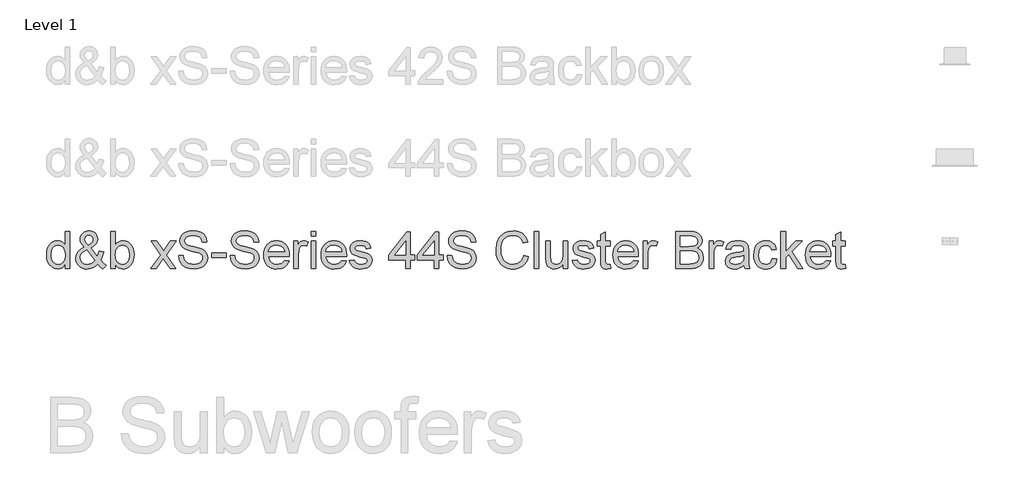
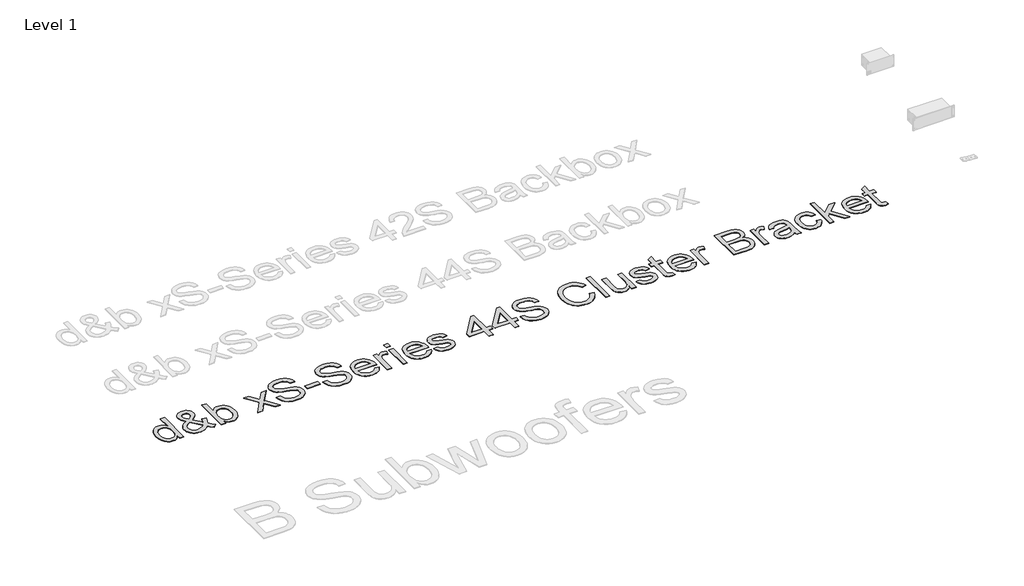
# One storey, part 7 of 55: 1 proxy.
"""IFC4 building model written with IfcOpenShell, lengths in millimetres."""

import ifcopenshell
import ifcopenshell.guid

model = None  # the IFC model being written
_history = None  # IfcOwnerHistory: only IFC2X3 demands one
_inside = {}  # id of a spatial element -> (the spatial element, [elements in it])
_under = {}  # id of a project, library or spatial element -> (it, [spatial elements below it])
_declared = {}  # id of a project -> (the project, [libraries it declares])
_typed = {}  # id of a type object -> (the type object, [elements of that type])
_made_of = {}  # id of a material, layer set ... -> (it, [elements and type objects made of it])


def new_model(schema):
    """Start an empty IFC model of exactly this schema.

    Asked for "IFC4X3", IfcOpenShell would pick the latest addendum, in which some entities
    have other attributes; the version numbers below select the first issue.
    IFC2X3 requires an IfcOwnerHistory on every rooted entity: one is made here for all.
    """
    global model, _history
    if schema == "IFC4X3":
        model = ifcopenshell.file(schema_version=(4, 3, 0, 0))
    else:
        model = ifcopenshell.file(schema=schema)
    _inside.clear()
    _under.clear()
    _declared.clear()
    _typed.clear()
    _made_of.clear()
    _history = None
    if model.schema == "IFC2X3":
        org = make("IfcOrganization", Name="unknown")
        user = make(
            "IfcPersonAndOrganization",
            ThePerson=make("IfcPerson", FamilyName="unknown"),
            TheOrganization=org,
        )
        app = make(
            "IfcApplication",
            ApplicationDeveloper=org,
            Version="unknown",
            ApplicationFullName="unknown",
            ApplicationIdentifier="unknown",
        )
        _history = make(
            "IfcOwnerHistory",
            OwningUser=user,
            OwningApplication=app,
            ChangeAction="ADDED",
            CreationDate=0,
        )
    return model


def make(cls, **values):
    """One entity of the class cls with the attributes given. An attribute that is None is left unset."""
    return model.create_entity(
        cls, **{name: value for name, value in values.items() if value is not None}
    )


def rooted(cls, **values):
    """An entity with a GlobalId (a new one), such as an element, a storey or a relation."""
    return make(cls, GlobalId=ifcopenshell.guid.new(), OwnerHistory=_history, **values)


def si_unit(unit_type, name, prefix=None):
    """IfcSIUnit, for example si_unit("LENGTHUNIT", "METRE", prefix="MILLI")."""
    return make("IfcSIUnit", UnitType=unit_type, Prefix=prefix, Name=name)


def assignment(units):
    """IfcUnitAssignment: the units of a project."""
    return None if units is None else make("IfcUnitAssignment", Units=units)


def point(xyz):
    """IfcCartesianPoint."""
    return None if xyz is None else make("IfcCartesianPoint", Coordinates=xyz)


def direction(xyz):
    """IfcDirection."""
    return None if xyz is None else make("IfcDirection", DirectionRatios=xyz)


def frame(location, z_axis=None, x_axis=None):
    """IfcAxis2Placement3D, a coordinate frame: its origin and axes. An axis left out is left unset."""
    return make(
        "IfcAxis2Placement3D",
        Location=point(location),
        Axis=direction(z_axis),
        RefDirection=direction(x_axis),
    )


def origin():
    """The frame at (0, 0, 0) with its axes left unset."""
    return frame((0.0, 0.0, 0.0))


def origin_with_axes():
    """The frame at (0, 0, 0) with the z axis (0, 0, 1) and the x axis (1, 0, 0) written out."""
    return frame((0.0, 0.0, 0.0), z_axis=(0.0, 0.0, 1.0), x_axis=(1.0, 0.0, 0.0))


def place(relative_to, where):
    """IfcLocalPlacement: puts the frame where relative to a parent placement (None: the world)."""
    return make(
        "IfcLocalPlacement", PlacementRelTo=relative_to, RelativePlacement=where
    )


def context(
    kind, dimensions, precision=None, world=None, true_north=None, identifier=None
):
    """IfcGeometricRepresentationContext, for example the 3D "Model" context."""
    return make(
        "IfcGeometricRepresentationContext",
        ContextIdentifier=identifier,
        ContextType=kind,
        CoordinateSpaceDimension=dimensions,
        Precision=precision,
        WorldCoordinateSystem=world,
        TrueNorth=true_north,
    )


def project(units=None, contexts=None):
    """IfcProject with its units and contexts."""
    return rooted(
        "IfcProject",
        Name="project",
        RepresentationContexts=contexts,
        UnitsInContext=assignment(units),
    )


def spatial(cls, under=None, at=None, **own):
    """A site, building, storey or space (cls), placed at a placement, below another one or the project."""
    s = rooted(cls, ObjectPlacement=at, **own)
    if under is not None:
        _under.setdefault(under.id(), (under, []))[1].append(s)
    return s


def polyline(points):
    """IfcPolyline through the points."""
    return make("IfcPolyline", Points=[point(p) for p in points])


def outline(outer, holes=None, kind="AREA"):
    """IfcArbitraryClosedProfileDef: a profile drawn as a closed curve; with holes, ...WithVoids."""
    if holes is None:
        return make("IfcArbitraryClosedProfileDef", ProfileType=kind, OuterCurve=outer)
    return make(
        "IfcArbitraryProfileDefWithVoids",
        ProfileType=kind,
        OuterCurve=outer,
        InnerCurves=holes,
    )


def extrude(swept, where, along, depth):
    """IfcExtrudedAreaSolid: the profile swept, set in the frame where, extruded along a direction by depth."""
    return make(
        "IfcExtrudedAreaSolid",
        SweptArea=swept,
        Position=where,
        ExtrudedDirection=direction(along),
        Depth=depth,
    )


def shape(context_of_items, identifier, shape_type, items):
    """IfcShapeRepresentation: the items that make up one representation, for example the "Body"."""
    return make(
        "IfcShapeRepresentation",
        ContextOfItems=context_of_items,
        RepresentationIdentifier=identifier,
        RepresentationType=shape_type,
        Items=items,
    )


def made_of(thing, what):
    """Note that an element or type object is made of a material, layer set ...; save() writes the relation."""
    if what is not None:
        _made_of.setdefault(what.id(), (what, []))[1].append(thing)
    return thing


def element(
    cls,
    number,
    at=None,
    inside=None,
    cuts=None,
    type_object=None,
    material=None,
    context=None,
    identifier="Body",
    shape_type=None,
    held_by="IfcProductDefinitionShape",
    body=None,
    shapes=None,
    **own,
):
    """One element of the class cls, such as IfcWall. Its Tag is "e" and its number.

    at: its placement. inside: the storey or other place that contains it. cuts: it is an
    opening in that element (IfcRelVoidsElement). A single representation is given by context,
    identifier, shape_type and body (its items); several are given by shapes. held_by: the class
    of the entity that holds the representations. save() writes the other relations.
    """
    e = rooted(cls, Tag="e%d" % number, ObjectPlacement=at, **own)
    if body is not None:
        shapes = [shape(context, identifier, shape_type, body)]
    if shapes is not None:
        e.Representation = make(held_by, Representations=shapes)
    if inside is not None:
        _inside.setdefault(inside.id(), (inside, []))[1].append(e)
    if cuts is not None:
        rooted(
            "IfcRelVoidsElement", RelatingBuildingElement=cuts, RelatedOpeningElement=e
        )
    if type_object is not None:
        _typed.setdefault(type_object.id(), (type_object, []))[1].append(e)
    return made_of(e, material)


def aggregate(whole, parts):
    """IfcRelAggregates: a whole, such as a stair, and the parts it consists of."""
    return rooted("IfcRelAggregates", RelatingObject=whole, RelatedObjects=parts)


def save(model, path):
    """Write the relations noted so far, then the file.

    IfcRelAggregates (storeys below a building ...), IfcRelContainedInSpatialStructure (elements
    in a storey), IfcRelDefinesByType, IfcRelAssociatesMaterial and IfcRelDeclares: one each for
    every whole, place, type object, material and project.
    """
    for whole, parts in _under.values():
        aggregate(whole, parts)
    for where, things in _inside.values():
        rooted(
            "IfcRelContainedInSpatialStructure",
            RelatedElements=things,
            RelatingStructure=where,
        )
    for kind, things in _typed.values():
        rooted("IfcRelDefinesByType", RelatedObjects=things, RelatingType=kind)
    for what, things in _made_of.values():
        rooted("IfcRelAssociatesMaterial", RelatedObjects=things, RelatingMaterial=what)
    for by, libraries in _declared.values():
        rooted("IfcRelDeclares", RelatingContext=by, RelatedDefinitions=libraries)
    model.write(path)


model = new_model("IFC4")

# Units and contexts
model_context = context("Model", 3, world=origin())
ifc_project = project(units=[si_unit("LENGTHUNIT", "METRE", prefix="MILLI")], contexts=[model_context])

# Site, building, storey
site = spatial("IfcSite", under=ifc_project)
building = spatial("IfcBuilding", under=site)
storey = spatial("IfcBuildingStorey", under=building, Name="Level 1", Elevation=0.0)

# Proxy
placement = place(None, origin())
element("IfcBuildingElementProxy", 1, Name="400mm Arial", ObjectType="400mm Arial", at=placement, inside=storey, context=model_context, shape_type="SweptSolid", body=[
    extrude(outline(polyline([(-20879.8211974, -32148.6945164), (-20879.8211974, -32101.3113154), (-20894.8491769, -32124.7883181), (-20913.0532043, -32141.5576057), (-20934.4332796, -32151.6191783), (-20958.9894028, -32154.9730358), (-20991.4611202, -32150.1169935), (-21021.1859854, -32135.5488665), (-21046.3491139, -32112.2864616), (-21065.1356211, -32081.3475858), (-21076.8342686, -32043.9830379), (-21080.7338177, -32001.4436165), (-21077.1408369, -31959.4314926), (-21066.3618945, -31921.4905962), (-21048.4092531, -31889.7791682), (-21023.2951755, -31866.4554497), (-20992.9203855, -31852.1080519), (-20959.1856065, -31847.325586), (-20934.6110892, -31850.7468885), (-20912.8815261, -31861.0107962), (-20894.4629008, -31876.7438829), (-20879.8211974, -31896.5727224), (-20879.8211974, -31746.8692758), (-20829.5930424, -31746.8692758), (-20829.5930424, -32148.6945164), (-20879.8211974, -32148.6945164)]), holes=[polyline([(-21030.5056627, -32001.2474128), (-21029.089317, -32025.6042665), (-21024.8402799, -32046.6808392), (-21017.7585515, -32064.4771307), (-21007.8441318, -32078.9931411), (-20983.1469871, -32098.3069458), (-20969.2717046, -32103.135397), (-20954.3786151, -32104.7448807), (-20939.415015, -32103.2089734), (-20925.6225058, -32098.6012514), (-20901.5507606, -32080.1703635), (-20892.0440767, -32066.2613584), (-20885.2535882, -32049.1088603), (-20879.8211974, -32005.0733855), (-20885.3516901, -31956.9298951), (-20892.2648059, -31938.3947739), (-20901.9431681, -31923.5507354), (-20913.6448812, -31912.1770504), (-20926.6280499, -31904.0529896), (-20940.8926743, -31899.1785532), (-20956.4387543, -31897.5537411), (-20971.6261493, -31899.1141738), (-20985.5014319, -31903.7954722), (-20998.064602, -31911.5976362), (-21009.3156597, -31922.5206658), (-21018.586286, -31936.8036843), (-21025.2081619, -31954.6858149), (-21030.5056627, -32001.2474128)])]), origin_with_axes(), (0.0, 0.0, 1.0), 5.0),
    extrude(outline(polyline([(-20523.809528, -32099.0549725), (-20549.3405384, -32123.5191252), (-20577.0788409, -32140.99352), (-20607.0734862, -32151.4781569), (-20639.3735254, -32154.9730358), (-20668.6814577, -32152.3855991), (-20694.8010793, -32144.623289), (-20717.7323904, -32131.6861055), (-20737.4753908, -32113.5740486), (-20750.308341, -32096.2038871), (-20759.4747341, -32077.8404442), (-20764.9745699, -32058.4837198), (-20766.8078485, -32038.1337141), (-20760.9094739, -32002.9396699), (-20743.2143499, -31971.3263438), (-20713.796053, -31943.3182613), (-20672.7281596, -31918.9399477), (-20694.6416638, -31890.5885086), (-20707.7995765, -31868.1231814), (-20714.3846642, -31848.9442668), (-20716.5796934, -31830.4520651), (-20714.8506481, -31812.8979626), (-20709.6635119, -31796.5333452), (-20701.018285, -31781.3582129), (-20688.9149674, -31767.3725657), (-20674.1935562, -31755.6555241), (-20657.6940487, -31747.2862088), (-20639.4164449, -31742.2646195), (-20619.3607448, -31740.5907564), (-20600.212487, -31742.1910431), (-20582.8913764, -31746.9919032), (-20567.397413, -31754.9933366), (-20553.7305969, -31766.1953433), (-20542.5715097, -31779.6414302), (-20534.6007332, -31794.3751041), (-20529.8182672, -31810.396365), (-20528.2241119, -31827.7052129), (-20532.9452642, -31855.68877), (-20547.108721, -31881.563137), (-20570.7144823, -31905.3283139), (-20603.7625482, -31926.9843007), (-20531.069066, -32017.5323224), (-20518.6837055, -31991.6579554), (-20509.3885538, -31961.9085647), (-20459.1603987, -31972.7978718), (-20474.6114425, -32019.3226815), (-20494.6732739, -32055.4977443), (-20466.1256311, -32088.8033276), (-20434.0463211, -32116.3209009), (-20471.7174374, -32154.9730358), (-20497.3465498, -32131.52669), (-20523.809528, -32099.0549725)]), holes=[polyline([(-20557.4584678, -32062.8553842), (-20647.1235727, -31950.9211558), (-20681.3733865, -31972.7733463), (-20702.305872, -31993.0068561), (-20713.0112381, -32012.3329235), (-20716.5796934, -32031.4627873), (-20711.6991256, -32055.1543878), (-20697.0574222, -32079.7289051), (-20686.2784798, -32090.6733944), (-20673.4639236, -32098.4908868), (-20658.6137537, -32103.1813823), (-20641.7279702, -32104.7448807), (-20619.0051256, -32101.8263502), (-20595.5710425, -32093.0707588), (-20574.1480476, -32079.6798541), (-20557.4584678, -32062.8553842)]), polyline([(-20629.1709314, -31895.2973981), (-20602.9041569, -31878.6323438), (-20587.8700461, -31864.1500559), (-20580.8067117, -31850.0601755), (-20578.452267, -31834.5723435), (-20581.5547385, -31817.0243723), (-20590.862153, -31803.0325938), (-20604.829406, -31793.8723321), (-20621.9113933, -31790.8189115), (-20639.3612626, -31793.8478066), (-20653.6473468, -31802.9344919), (-20663.1754905, -31816.3867102), (-20666.3515384, -31832.5122043), (-20662.0350563, -31850.9063041), (-20648.9875082, -31871.360543), (-20629.1709314, -31895.2973981)])]), origin_with_axes(), (0.0, 0.0, 1.0), 5.0),
    extrude(outline(polyline([(-20333.590011, -32148.6945164), (-20383.8181661, -32148.6945164), (-20383.8181661, -31746.8692758), (-20333.590011, -31746.8692758), (-20333.590011, -31895.8860093), (-20317.0721094, -31874.6408241), (-20298.4204923, -31859.4656918), (-20277.6351595, -31850.3606124), (-20254.7161112, -31847.325586), (-20228.8417442, -31850.0601755), (-20204.3898543, -31858.263944), (-20182.758393, -31871.4218567), (-20165.3453119, -31889.0188788), (-20151.6968898, -31910.883332), (-20141.3594058, -31936.8435381), (-20134.8478945, -31965.8203766), (-20132.6773907, -31996.734727), (-20134.9245365, -32032.4070178), (-20141.6659741, -32063.7873519), (-20152.9017034, -32090.8757295), (-20168.6317244, -32113.6721505), (-20187.5132678, -32131.7412878), (-20208.2035643, -32144.6478145), (-20230.702614, -32152.3917305), (-20255.0104168, -32154.9730358), (-20278.6836232, -32151.6437038), (-20299.671291, -32141.6557076), (-20317.9734203, -32125.0090473), (-20333.590011, -32101.7037229), (-20333.590011, -32148.6945164)]), holes=[polyline([(-20333.590011, -31999.0891717), (-20330.1564457, -32040.9786682), (-20319.8557498, -32069.3301073), (-20307.6849872, -32084.8240707), (-20293.5399244, -32095.8911874), (-20277.4205617, -32102.5314574), (-20259.3268989, -32104.7448807), (-20244.3050508, -32103.1139372), (-20230.3377977, -32098.2211067), (-20217.4251396, -32090.0663891), (-20205.5670767, -32078.6497845), (-20195.6526569, -32064.0019498), (-20188.5709285, -32046.1535416), (-20184.3218914, -32025.1045601), (-20182.9055458, -32000.8550053), (-20188.3379366, -31954.8942814), (-20195.1284251, -31937.1010555), (-20204.6351089, -31922.7659205), (-20216.0670419, -31911.735592), (-20228.6332778, -31903.8567859), (-20242.3338164, -31899.1295023), (-20257.1686579, -31897.5537411), (-20272.190506, -31899.1846846), (-20286.1577591, -31904.0775151), (-20299.0704171, -31912.2322327), (-20310.9284801, -31923.6488372), (-20320.8428999, -31938.1495192), (-20327.9246283, -31955.556469), (-20332.1736653, -31975.8696865), (-20333.590011, -31999.0891717)])]), origin_with_axes(), (0.0, 0.0, 1.0), 5.0),
    extrude(outline(polyline([(-19950.6003285, -32148.6945164), (-19843.2768878, -32000.2663941), (-19944.3218092, -31853.6041054), (-19884.0872638, -31853.6041054), (-19835.3306367, -31924.3355503), (-19812.4729021, -31957.5920827), (-19792.6563253, -31930.3197641), (-19737.1306695, -31853.6041054), (-19676.6999204, -31853.6041054), (-19782.8461387, -32000.364496), (-19680.623995, -32148.6945164), (-19740.9566422, -32148.6945164), (-19802.5646137, -32059.4218189), (-19813.7482263, -32043.0388074), (-19890.1695795, -32148.6945164), (-19950.6003285, -32148.6945164)])), origin_with_axes(), (0.0, 0.0, 1.0), 5.0),
    extrude(outline(polyline([(-19649.2313981, -32010.56709), (-19599.003243, -32010.56709), (-19593.2397584, -32038.4402825), (-19582.8164352, -32060.844296), (-19566.556051, -32078.6252591), (-19543.2813835, -32092.6293004), (-19514.8318425, -32101.7159856), (-19483.0468381, -32104.7448807), (-19455.063281, -32102.4517496), (-19430.5623402, -32095.5723563), (-19410.7089752, -32084.6830493), (-19396.6681457, -32070.3601769), (-19388.3172244, -32053.9158517), (-19385.533584, -32036.6621862), (-19387.6182486, -32019.849979), (-19393.8722425, -32005.3186402), (-19406.5764341, -31992.9210169), (-19428.0116917, -31982.5099565), (-19501.1466323, -31963.3310418), (-19549.1552327, -31950.639113), (-19579.8733793, -31938.5603208), (-19604.8770922, -31921.6622745), (-19622.5967416, -31901.1835101), (-19633.1549549, -31877.565486), (-19636.6743593, -31851.2496606), (-19632.3210891, -31821.8313637), (-19619.2612782, -31794.3996296), (-19597.8382834, -31771.1494875), (-19568.395461, -31754.2759667), (-19533.054264, -31744.012059), (-19493.9361452, -31740.5907564), (-19451.5561394, -31744.1714745), (-19414.4736342, -31754.9136288), (-19384.013005, -31772.59649), (-19361.4986269, -31796.999329), (-19347.249331, -31826.6015669), (-19341.5839483, -31859.8826247), (-19391.8121033, -31859.8826247), (-19401.0336787, -31829.9125049), (-19409.3968627, -31818.0544419), (-19420.2616443, -31808.2810436), (-19450.3053406, -31795.1844445), (-19491.9741079, -31790.8189115), (-19534.6238939, -31795.1353936), (-19550.9271976, -31800.5309962), (-19563.8827752, -31808.0848398), (-19580.805347, -31827.1411272), (-19586.4462043, -31849.7781326), (-19582.4485532, -31869.0796746), (-19570.4556002, -31884.6042948), (-19542.1041611, -31898.4857088), (-19488.4424407, -31912.6614283), (-19433.0639377, -31926.1259093), (-19399.5621507, -31937.8736077), (-19370.9286687, -31956.0960292), (-19350.9526764, -31978.5858819), (-19339.2172408, -32005.097911), (-19335.3054289, -32035.3868619), (-19339.805852, -32066.3502632), (-19353.3071212, -32095.4742545), (-19375.2574136, -32120.5392811), (-19405.1049061, -32139.3257883), (-19440.9979261, -32151.0612239), (-19481.0848008, -32154.9730358), (-19530.2951491, -32150.7546556), (-19570.7989567, -32138.099515), (-19603.0622077, -32116.958563), (-19627.5508858, -32087.2827487), (-19643.2717098, -32051.1322113), (-19649.2313981, -32010.56709)])), origin_with_axes(), (0.0, 0.0, 1.0), 5.0),
    extrude(outline(polyline([(-19291.3557932, -32029.4026481), (-19291.3557932, -31979.174493), (-19134.3928086, -31979.174493), (-19134.3928086, -32029.4026481), (-19291.3557932, -32029.4026481)])), origin_with_axes(), (0.0, 0.0, 1.0), 5.0),
    extrude(outline(polyline([(-19090.4431729, -32010.56709), (-19040.2150178, -32010.56709), (-19034.4515332, -32038.4402825), (-19024.02821, -32060.844296), (-19007.7678258, -32078.6252591), (-18984.4931583, -32092.6293004), (-18956.0436173, -32101.7159856), (-18924.2586129, -32104.7448807), (-18896.2750558, -32102.4517496), (-18871.774115, -32095.5723563), (-18851.9207499, -32084.6830493), (-18837.8799205, -32070.3601769), (-18829.5289992, -32053.9158517), (-18826.7453587, -32036.6621862), (-18828.8300234, -32019.849979), (-18835.0840173, -32005.3186402), (-18847.7882089, -31992.9210169), (-18869.2234665, -31982.5099565), (-18942.3584071, -31963.3310418), (-18990.3670075, -31950.639113), (-19021.0851541, -31938.5603208), (-19046.088867, -31921.6622745), (-19063.8085164, -31901.1835101), (-19074.3667297, -31877.565486), (-19077.8861341, -31851.2496606), (-19073.5328638, -31821.8313637), (-19060.473053, -31794.3996296), (-19039.0500582, -31771.1494875), (-19009.6072358, -31754.2759667), (-18974.2660388, -31744.012059), (-18935.14792, -31740.5907564), (-18892.7679141, -31744.1714745), (-18855.685409, -31754.9136288), (-18825.2247798, -31772.59649), (-18802.7104017, -31796.999329), (-18788.4611058, -31826.6015669), (-18782.7957231, -31859.8826247), (-18833.0238781, -31859.8826247), (-18842.2454535, -31829.9125049), (-18850.6086375, -31818.0544419), (-18861.4734191, -31808.2810436), (-18891.5171154, -31795.1844445), (-18933.1858827, -31790.8189115), (-18975.8356687, -31795.1353936), (-18992.1389724, -31800.5309962), (-19005.09455, -31808.0848398), (-19022.0171218, -31827.1411272), (-19027.657979, -31849.7781326), (-19023.660328, -31869.0796746), (-19011.667375, -31884.6042948), (-18983.3159359, -31898.4857088), (-18929.6542155, -31912.6614283), (-18874.2757125, -31926.1259093), (-18840.7739255, -31937.8736077), (-18812.1404435, -31956.0960292), (-18792.1644512, -31978.5858819), (-18780.4290156, -32005.097911), (-18776.5172037, -32035.3868619), (-18781.0176267, -32066.3502632), (-18794.518896, -32095.4742545), (-18816.4691883, -32120.5392811), (-18846.3166809, -32139.3257883), (-18882.2097009, -32151.0612239), (-18922.2965756, -32154.9730358), (-18971.5069238, -32150.7546556), (-19012.0107315, -32138.099515), (-19044.2739825, -32116.958563), (-19068.7626606, -32087.2827487), (-19084.4834846, -32051.1322113), (-19090.4431729, -32010.56709)])), origin_with_axes(), (0.0, 0.0, 1.0), 5.0),
    extrude(outline(polyline([(-18500.850962, -32060.795245), (-18451.6038255, -32067.0737644), (-18459.1546035, -32086.7983707), (-18469.3480004, -32104.180795), (-18482.1840164, -32119.2210372), (-18497.6626513, -32131.9190974), (-18515.6244897, -32142.0051955), (-18535.9101161, -32149.2095512), (-18583.4527326, -32154.9730358), (-18614.618469, -32152.4867667), (-18642.3874282, -32145.0279592), (-18666.7596104, -32132.5966135), (-18687.7350155, -32115.1927294), (-18704.602405, -32093.300685), (-18716.6505403, -32067.4048582), (-18723.8794215, -32037.5052491), (-18726.2890486, -32003.6018575), (-18723.8548961, -31968.5488348), (-18716.5524385, -31937.6528785), (-18704.3816758, -31910.9139888), (-18687.342608, -31888.3321657), (-18666.4223852, -31870.3917871), (-18642.6081574, -31857.5772309), (-18615.8999246, -31849.8884972), (-18586.2976867, -31847.325586), (-18557.6488763, -31849.8823658), (-18531.7407868, -31857.5527054), (-18508.5734182, -31870.3366048), (-18488.1467704, -31888.2340638), (-18471.472519, -31910.766836), (-18459.5623394, -31937.4566748), (-18452.4162316, -31968.3035801), (-18450.0341957, -32003.3075519), (-18450.3285013, -32016.8456094), (-18676.0608935, -32016.8456094), (-18673.1515601, -32036.8890467), (-18667.3666157, -32054.4431493), (-18658.7060604, -32069.507917), (-18647.1698942, -32082.0833498), (-18633.3957791, -32091.9977696), (-18618.0213774, -32099.079498), (-18582.4717139, -32104.7448807), (-18555.7389556, -32102.1206558), (-18533.2245775, -32094.2479811), (-18514.9285796, -32080.6363473), (-18500.850962, -32060.795245)]), holes=[polyline([(-18676.0608935, -31966.6174543), (-18500.2623508, -31966.6174543), (-18507.0559049, -31940.0808997), (-18520.3732332, -31921.0981887), (-18534.0707061, -31910.7974929), (-18549.65664, -31903.439853), (-18567.1310348, -31899.025269), (-18586.4938904, -31897.5537411), (-18620.3512967, -31902.2503679), (-18648.3471166, -31916.3402483), (-18667.8080741, -31938.3028034), (-18676.0608935, -31966.6174543)])]), origin_with_axes(), (0.0, 0.0, 1.0), 5.0),
    extrude(outline(polyline([(-18399.8060406, -32148.6945164), (-18399.8060406, -31853.6041054), (-18355.8564049, -31853.6041054), (-18355.8564049, -31897.2594355), (-18339.6205462, -31871.9491542), (-18324.6600117, -31857.0376707), (-18309.6504263, -31849.7536071), (-18293.2674148, -31847.325586), (-18268.2514391, -31851.2006097), (-18242.843056, -31862.8256807), (-18259.618475, -31907.8544369), (-18277.2768108, -31900.128915), (-18294.9351465, -31897.5537411), (-18309.9324692, -31900.0308132), (-18323.3356365, -31907.4620295), (-18334.1636299, -31919.2833042), (-18341.4354307, -31934.9305518), (-18347.5422718, -31962.9876853), (-18349.5778855, -31993.5954673), (-18349.5778855, -32148.6945164), (-18399.8060406, -32148.6945164)])), origin_with_axes(), (0.0, 0.0, 1.0), 5.0),
    extrude(outline(polyline([(-18211.4504591, -31797.0974309), (-18211.4504591, -31746.8692758), (-18161.222304, -31746.8692758), (-18161.222304, -31797.0974309), (-18211.4504591, -31797.0974309)])), origin_with_axes(), (0.0, 0.0, 1.0), 5.0),
    extrude(outline(polyline([(-18211.4504591, -32148.6945164), (-18211.4504591, -31853.6041054), (-18161.222304, -31853.6041054), (-18161.222304, -32148.6945164), (-18211.4504591, -32148.6945164)])), origin_with_axes(), (0.0, 0.0, 1.0), 5.0),
    extrude(outline(polyline([(-17879.2775429, -32060.795245), (-17830.0304065, -32067.0737644), (-17837.5811844, -32086.7983707), (-17847.7745814, -32104.180795), (-17860.6105973, -32119.2210372), (-17876.0892323, -32131.9190974), (-17894.0510707, -32142.0051955), (-17914.336697, -32149.2095512), (-17961.8793136, -32154.9730358), (-17993.0450499, -32152.4867667), (-18020.8140092, -32145.0279592), (-18045.1861914, -32132.5966135), (-18066.1615965, -32115.1927294), (-18083.0289859, -32093.300685), (-18095.0771213, -32067.4048582), (-18102.3060025, -32037.5052491), (-18104.7156295, -32003.6018575), (-18102.281477, -31968.5488348), (-18094.9790194, -31937.6528785), (-18082.8082567, -31910.9139888), (-18065.769189, -31888.3321657), (-18044.8489662, -31870.3917871), (-18021.0347384, -31857.5772309), (-17994.3265055, -31849.8884972), (-17964.7242676, -31847.325586), (-17936.0754573, -31849.8823658), (-17910.1673678, -31857.5527054), (-17886.9999991, -31870.3366048), (-17866.5733513, -31888.2340638), (-17849.8990999, -31910.766836), (-17837.9889203, -31937.4566748), (-17830.8428126, -31968.3035801), (-17828.4607766, -32003.3075519), (-17828.7550822, -32016.8456094), (-18054.4874745, -32016.8456094), (-18051.578141, -32036.8890467), (-18045.7931967, -32054.4431493), (-18037.1326413, -32069.507917), (-18025.5964751, -32082.0833498), (-18011.8223601, -32091.9977696), (-17996.4479584, -32099.079498), (-17960.8982949, -32104.7448807), (-17934.1655366, -32102.1206558), (-17911.6511585, -32094.2479811), (-17893.3551606, -32080.6363473), (-17879.2775429, -32060.795245)]), holes=[polyline([(-18054.4874745, -31966.6174543), (-17878.6889317, -31966.6174543), (-17885.4824859, -31940.0808997), (-17898.7998141, -31921.0981887), (-17912.4972871, -31910.7974929), (-17928.0832209, -31903.439853), (-17945.5576157, -31899.025269), (-17964.9204714, -31897.5537411), (-17998.7778777, -31902.2503679), (-18026.7736975, -31916.3402483), (-18046.234655, -31938.3028034), (-18054.4874745, -31966.6174543)])]), origin_with_axes(), (0.0, 0.0, 1.0), 5.0),
    extrude(outline(polyline([(-17797.0681797, -32060.795245), (-17746.8400246, -32054.5167257), (-17738.918299, -32076.0010342), (-17723.5898825, -32091.7954345), (-17700.7566734, -32101.5075192), (-17670.3205696, -32104.7448807), (-17640.2523479, -32101.7772993), (-17619.1113959, -32092.874555), (-17606.6034081, -32079.9741597), (-17602.4340788, -32065.0136253), (-17606.6279335, -32052.2113318), (-17619.2094978, -32042.4501962), (-17670.9091808, -32028.1273239), (-17746.545719, -32003.5528066), (-17765.6878455, -31991.2042343), (-17779.5569967, -31974.858011), (-17787.9814944, -31955.556469), (-17790.7896603, -31934.3419406), (-17788.5333174, -31914.880983), (-17781.7642887, -31896.9160789), (-17771.0957109, -31881.1584668), (-17757.1407205, -31868.3193852), (-17725.2085633, -31853.4569526), (-17704.3251287, -31848.8584276), (-17681.9946916, -31847.325586), (-17649.302245, -31849.7903953), (-17620.8772295, -31857.1848234), (-17598.0194949, -31868.785369), (-17582.0288908, -31883.8685308), (-17571.4338893, -31903.5502176), (-17564.7629625, -31928.946338), (-17614.9911176, -31935.2248574), (-17621.3309506, -31919.4181943), (-17633.8757267, -31907.5110804), (-17652.748073, -31900.0430759), (-17678.070617, -31897.5537411), (-17706.9125654, -31899.9327113), (-17726.140531, -31907.069622), (-17736.9562617, -31917.3703179), (-17740.5615053, -31929.2406436), (-17734.5772915, -31943.8578215), (-17715.8398352, -31954.9433323), (-17672.5769125, -31965.6364356), (-17598.8533607, -31989.2789852), (-17579.3801404, -32000.5852252), (-17564.6158097, -32016.0607944), (-17555.3083952, -32035.7547439), (-17552.2059237, -32059.7161245), (-17555.8479555, -32084.4868455), (-17566.7740507, -32107.7860386), (-17584.5672766, -32127.7865564), (-17608.8107, -32142.6612517), (-17638.0941069, -32151.8950898), (-17671.0072827, -32154.9730358), (-17698.040478, -32153.4892451), (-17721.6523707, -32149.037873), (-17741.8429609, -32141.6189194), (-17758.6122485, -32131.2323844), (-17772.3097214, -32117.9273189), (-17783.2848676, -32101.7527738), (-17791.5376871, -32082.7087492), (-17797.0681797, -32060.795245)])), origin_with_axes(), (0.0, 0.0, 1.0), 5.0),
    extrude(outline(polyline([(-17188.0517994, -32148.6945164), (-17188.0517994, -32054.5167257), (-17370.1288616, -32054.5167257), (-17370.1288616, -32004.2885706), (-17175.4947607, -31753.1477952), (-17137.8236444, -31753.1477952), (-17137.8236444, -32004.2885706), (-17087.5954893, -32004.2885706), (-17087.5954893, -32054.5167257), (-17137.8236444, -32054.5167257), (-17137.8236444, -32148.6945164), (-17188.0517994, -32148.6945164)]), holes=[polyline([(-17188.0517994, -32004.2885706), (-17188.0517994, -31849.0914196), (-17308.3246864, -32004.2885706), (-17188.0517994, -32004.2885706)])]), origin_with_axes(), (0.0, 0.0, 1.0), 5.0),
    extrude(outline(polyline([(-16880.4043496, -32148.6945164), (-16880.4043496, -32054.5167257), (-17062.4814117, -32054.5167257), (-17062.4814117, -32004.2885706), (-16867.8473108, -31753.1477952), (-16830.1761945, -31753.1477952), (-16830.1761945, -32004.2885706), (-16779.9480394, -32004.2885706), (-16779.9480394, -32054.5167257), (-16830.1761945, -32054.5167257), (-16830.1761945, -32148.6945164), (-16880.4043496, -32148.6945164)]), holes=[polyline([(-16880.4043496, -32004.2885706), (-16880.4043496, -31849.0914196), (-17000.6772366, -32004.2885706), (-16880.4043496, -32004.2885706)])]), origin_with_axes(), (0.0, 0.0, 1.0), 5.0),
    extrude(outline(polyline([(-16735.9984038, -32010.56709), (-16685.7702487, -32010.56709), (-16680.0067641, -32038.4402825), (-16669.5834409, -32060.844296), (-16653.3230567, -32078.6252591), (-16630.0483891, -32092.6293004), (-16601.5988482, -32101.7159856), (-16569.8138438, -32104.7448807), (-16541.8302867, -32102.4517496), (-16517.3293458, -32095.5723563), (-16497.4759808, -32084.6830493), (-16483.4351513, -32070.3601769), (-16475.08423, -32053.9158517), (-16472.3005896, -32036.6621862), (-16474.3852543, -32019.849979), (-16480.6392482, -32005.3186402), (-16493.3434397, -31992.9210169), (-16514.7786973, -31982.5099565), (-16587.913638, -31963.3310418), (-16635.9222383, -31950.639113), (-16666.6403849, -31938.5603208), (-16691.6440979, -31921.6622745), (-16709.3637473, -31901.1835101), (-16719.9219606, -31877.565486), (-16723.441365, -31851.2496606), (-16719.0880947, -31821.8313637), (-16706.0282839, -31794.3996296), (-16684.605289, -31771.1494875), (-16655.1624667, -31754.2759667), (-16619.8212697, -31744.012059), (-16580.7031509, -31740.5907564), (-16538.323145, -31744.1714745), (-16501.2406399, -31754.9136288), (-16470.7800107, -31772.59649), (-16448.2656326, -31796.999329), (-16434.0163367, -31826.6015669), (-16428.3509539, -31859.8826247), (-16478.579109, -31859.8826247), (-16487.8006843, -31829.9125049), (-16496.1638684, -31818.0544419), (-16507.02865, -31808.2810436), (-16537.0723462, -31795.1844445), (-16578.7411136, -31790.8189115), (-16621.3908995, -31795.1353936), (-16637.6942033, -31800.5309962), (-16650.6497809, -31808.0848398), (-16667.5723527, -31827.1411272), (-16673.2132099, -31849.7781326), (-16669.2155589, -31869.0796746), (-16657.2226059, -31884.6042948), (-16628.8711668, -31898.4857088), (-16575.2094464, -31912.6614283), (-16519.8309434, -31926.1259093), (-16486.3291564, -31937.8736077), (-16457.6956744, -31956.0960292), (-16437.7196821, -31978.5858819), (-16425.9842464, -32005.097911), (-16422.0724345, -32035.3868619), (-16426.5728576, -32066.3502632), (-16440.0741268, -32095.4742545), (-16462.0244192, -32120.5392811), (-16491.8719118, -32139.3257883), (-16527.7649318, -32151.0612239), (-16567.8518065, -32154.9730358), (-16617.0621547, -32150.7546556), (-16657.5659624, -32138.099515), (-16689.8292134, -32116.958563), (-16714.3178915, -32087.2827487), (-16730.0387154, -32051.1322113), (-16735.9984038, -32010.56709)])), origin_with_axes(), (0.0, 0.0, 1.0), 5.0),
    extrude(outline(polyline([(-15907.233845, -32005.8582004), (-15857.0056899, -32018.8076467), (-15866.9446352, -32050.0438937), (-15880.1822556, -32077.3376721), (-15896.7185513, -32100.6889817), (-15916.5535222, -32120.0978227), (-15939.2395786, -32135.3557284), (-15964.3291307, -32146.2542325), (-15991.8221784, -32152.793335), (-16021.7187219, -32154.9730358), (-16052.3479637, -32153.3236982), (-16079.9789672, -32148.3756854), (-16104.6117325, -32140.1289973), (-16126.2462595, -32128.583634), (-16145.1799195, -32113.9112738), (-16161.7100838, -32096.2835948), (-16175.8367524, -32075.7005972), (-16187.5599253, -32052.1622809), (-16203.3420629, -32000.2909196), (-16208.6027755, -31944.7407383), (-16202.6553499, -31886.1493992), (-16195.2210679, -31859.8519679), (-16184.8130731, -31835.5533621), (-16171.6643575, -31813.6551864), (-16156.0079129, -31794.5590451), (-16137.8437394, -31778.2649384), (-16117.1718369, -31764.7728663), (-16094.694247, -31754.1931932), (-16071.1130111, -31746.6362839), (-16020.6396014, -31740.5907564), (-15991.9110833, -31742.5466624), (-15965.5676667, -31748.4143802), (-15941.6093518, -31758.1939099), (-15920.0361385, -31771.8852515), (-15901.203646, -31789.1266543), (-15885.4674936, -31809.5563678), (-15872.8276814, -31833.1743919), (-15863.2842093, -31859.9807266), (-15913.5123644, -31871.9491542), (-15930.9254455, -31835.3203702), (-15954.7151479, -31810.1940299), (-15985.1757771, -31795.6626911), (-16022.6016387, -31790.8189115), (-16065.741934, -31796.1899886), (-16084.424208, -31802.9038351), (-16101.1812329, -31812.30322), (-16128.0734067, -31837.4663485), (-16145.572327, -31869.9871169), (-16155.174047, -31906.7507909), (-16158.3746204, -31944.6426364), (-16154.5854358, -31991.0448188), (-16143.2178822, -32031.1684817), (-16123.8427638, -32063.4807836), (-16096.0308849, -32086.4488828), (-16062.6885135, -32100.1708813), (-16026.7219171, -32104.7448807), (-16004.885055, -32103.1875136), (-15984.7956323, -32098.5154123), (-15966.4536492, -32090.7285767), (-15949.8591055, -32079.8270069), (-15935.4044088, -32065.8597538), (-15923.4819665, -32048.8758684), (-15914.0917786, -32028.8753506), (-15907.233845, -32005.8582004)])), origin_with_axes(), (0.0, 0.0, 1.0), 5.0),
    extrude(outline(polyline([(-15794.2204961, -32148.6945164), (-15794.2204961, -31746.8692758), (-15743.992341, -31746.8692758), (-15743.992341, -32148.6945164), (-15794.2204961, -32148.6945164)])), origin_with_axes(), (0.0, 0.0, 1.0), 5.0),
    extrude(outline(polyline([(-15480.2945269, -32148.6945164), (-15480.2945269, -32097.975852), (-15498.4678974, -32122.9121199), (-15519.6333749, -32140.7237399), (-15543.7909593, -32151.4107118), (-15570.9406505, -32154.9730358), (-15595.4048032, -32152.4714382), (-15618.1766987, -32144.9666455), (-15637.282037, -32133.684931), (-15650.746518, -32119.852568), (-15659.8086778, -32103.0526236), (-15665.7070525, -32082.8681648), (-15668.6501084, -32036.1716768), (-15668.6501084, -31853.6041054), (-15618.4219533, -31853.6041054), (-15618.4219533, -32012.5291273), (-15615.3807955, -32063.738301), (-15608.0599438, -32080.8202883), (-15595.5151678, -32093.8065227), (-15578.5803333, -32102.0102912), (-15558.0893061, -32104.7448807), (-15536.4210566, -32101.9489776), (-15516.1507587, -32093.5612681), (-15499.4366534, -32080.3543045), (-15488.4369817, -32063.1006389), (-15482.3301406, -32039.4703521), (-15480.2945269, -32007.1335247), (-15480.2945269, -31853.6041054), (-15430.0663718, -31853.6041054), (-15430.0663718, -32148.6945164), (-15480.2945269, -32148.6945164)])), origin_with_axes(), (0.0, 0.0, 1.0), 5.0),
    extrude(outline(polyline([(-15379.8382167, -32060.795245), (-15329.6100617, -32054.5167257), (-15321.688336, -32076.0010342), (-15306.3599196, -32091.7954345), (-15283.5267104, -32101.5075192), (-15253.0906067, -32104.7448807), (-15223.0223849, -32101.7772993), (-15201.8814329, -32092.874555), (-15189.3734451, -32079.9741597), (-15185.2041158, -32065.0136253), (-15189.3979706, -32052.2113318), (-15201.9795348, -32042.4501962), (-15253.6792179, -32028.1273239), (-15329.3157561, -32003.5528066), (-15348.4578825, -31991.2042343), (-15362.3270338, -31974.858011), (-15370.7515315, -31955.556469), (-15373.5596974, -31934.3419406), (-15371.3033544, -31914.880983), (-15364.5343257, -31896.9160789), (-15353.8657479, -31881.1584668), (-15339.9107575, -31868.3193852), (-15307.9786003, -31853.4569526), (-15287.0951658, -31848.8584276), (-15264.7647286, -31847.325586), (-15232.072282, -31849.7903953), (-15203.6472665, -31857.1848234), (-15180.7895319, -31868.785369), (-15164.7989278, -31883.8685308), (-15154.2039264, -31903.5502176), (-15147.5329995, -31928.946338), (-15197.7611546, -31935.2248574), (-15204.1009876, -31919.4181943), (-15216.6457637, -31907.5110804), (-15235.51811, -31900.0430759), (-15260.840654, -31897.5537411), (-15289.6826025, -31899.9327113), (-15308.9105681, -31907.069622), (-15319.7262987, -31917.3703179), (-15323.3315423, -31929.2406436), (-15317.3473285, -31943.8578215), (-15298.6098722, -31954.9433323), (-15255.3469496, -31965.6364356), (-15181.6233977, -31989.2789852), (-15162.1501775, -32000.5852252), (-15147.3858467, -32016.0607944), (-15138.0784322, -32035.7547439), (-15134.9759607, -32059.7161245), (-15138.6179925, -32084.4868455), (-15149.5440878, -32107.7860386), (-15167.3373136, -32127.7865564), (-15191.5807371, -32142.6612517), (-15220.8641439, -32151.8950898), (-15253.7773197, -32154.9730358), (-15280.810515, -32153.4892451), (-15304.4224077, -32149.037873), (-15324.6129979, -32141.6189194), (-15341.3822855, -32131.2323844), (-15355.0797585, -32117.9273189), (-15366.0549047, -32101.7527738), (-15374.3077241, -32082.7087492), (-15379.8382167, -32060.795245)])), origin_with_axes(), (0.0, 0.0, 1.0), 5.0),
    extrude(outline(polyline([(-14971.7344568, -32106.8050199), (-14965.4559374, -32150.1660444), (-15003.0289518, -32154.9730358), (-15027.1374852, -32152.8883712), (-15045.1146521, -32146.6343773), (-15057.8188436, -32136.995869), (-15066.1084513, -32124.7576613), (-15070.670188, -32103.7393366), (-15072.1907669, -32067.7604775), (-15072.1907669, -31903.8322604), (-15109.8618832, -31903.8322604), (-15109.8618832, -31853.6041054), (-15072.1907669, -31853.6041054), (-15072.1907669, -31781.8916418), (-15021.9626118, -31752.3629803), (-15021.9626118, -31853.6041054), (-14971.7344568, -31853.6041054), (-14971.7344568, -31903.8322604), (-15021.9626118, -31903.8322604), (-15021.9626118, -32066.2889495), (-15019.3138615, -32092.187842), (-15010.7299482, -32101.3603664), (-14993.6111727, -32104.7448807), (-14971.7344568, -32106.8050199)])), origin_with_axes(), (0.0, 0.0, 1.0), 5.0),
    extrude(outline(polyline([(-14714.9037732, -32060.795245), (-14665.6566368, -32067.0737644), (-14673.2074147, -32086.7983707), (-14683.4008117, -32104.180795), (-14696.2368276, -32119.2210372), (-14711.7154626, -32131.9190974), (-14729.677301, -32142.0051955), (-14749.9629273, -32149.2095512), (-14797.5055438, -32154.9730358), (-14828.6712802, -32152.4867667), (-14856.4402395, -32145.0279592), (-14880.8124216, -32132.5966135), (-14901.7878267, -32115.1927294), (-14918.6552162, -32093.300685), (-14930.7033516, -32067.4048582), (-14937.9322328, -32037.5052491), (-14940.3418598, -32003.6018575), (-14937.9077073, -31968.5488348), (-14930.6052497, -31937.6528785), (-14918.434487, -31910.9139888), (-14901.3954193, -31888.3321657), (-14880.4751965, -31870.3917871), (-14856.6609687, -31857.5772309), (-14829.9527358, -31849.8884972), (-14800.3504979, -31847.325586), (-14771.7016876, -31849.8823658), (-14745.7935981, -31857.5527054), (-14722.6262294, -31870.3366048), (-14702.1995816, -31888.2340638), (-14685.5253302, -31910.766836), (-14673.6151506, -31937.4566748), (-14666.4690428, -31968.3035801), (-14664.0870069, -32003.3075519), (-14664.3813125, -32016.8456094), (-14890.1137048, -32016.8456094), (-14887.2043713, -32036.8890467), (-14881.4194269, -32054.4431493), (-14872.7588716, -32069.507917), (-14861.2227054, -32082.0833498), (-14847.4485904, -32091.9977696), (-14832.0741887, -32099.079498), (-14796.5245252, -32104.7448807), (-14769.7917669, -32102.1206558), (-14747.2773888, -32094.2479811), (-14728.9813909, -32080.6363473), (-14714.9037732, -32060.795245)]), holes=[polyline([(-14890.1137048, -31966.6174543), (-14714.315162, -31966.6174543), (-14721.1087162, -31940.0808997), (-14734.4260444, -31921.0981887), (-14748.1235174, -31910.7974929), (-14763.7094512, -31903.439853), (-14781.183846, -31899.025269), (-14800.5467017, -31897.5537411), (-14834.404108, -31902.2503679), (-14862.3999278, -31916.3402483), (-14881.8608853, -31938.3028034), (-14890.1137048, -31966.6174543)])]), origin_with_axes(), (0.0, 0.0, 1.0), 5.0),
    extrude(outline(polyline([(-14613.8588518, -32148.6945164), (-14613.8588518, -31853.6041054), (-14569.9092162, -31853.6041054), (-14569.9092162, -31897.2594355), (-14553.6733574, -31871.9491542), (-14538.712823, -31857.0376707), (-14523.7032376, -31849.7536071), (-14507.320226, -31847.325586), (-14482.3042504, -31851.2006097), (-14456.8958672, -31862.8256807), (-14473.6712862, -31907.8544369), (-14491.329622, -31900.128915), (-14508.9879578, -31897.5537411), (-14523.9852804, -31900.0308132), (-14537.3884478, -31907.4620295), (-14548.2164412, -31919.2833042), (-14555.4882419, -31934.9305518), (-14561.5950831, -31962.9876853), (-14563.6306968, -31993.5954673), (-14563.6306968, -32148.6945164), (-14613.8588518, -32148.6945164)])), origin_with_axes(), (0.0, 0.0, 1.0), 5.0),
    extrude(outline(polyline([(-14262.2617663, -32148.6945164), (-14262.2617663, -31746.8692758), (-14108.9285507, -31746.8692758), (-14066.7570114, -31749.8245945), (-14033.8315728, -31758.6905506), (-14008.5948679, -31773.6878733), (-13989.4895296, -31795.0372917), (-13977.4597884, -31820.1513693), (-13973.4498746, -31846.4426692), (-13976.8221263, -31870.6370417), (-13986.9388811, -31893.3844118), (-14003.8737156, -31913.2868277), (-14027.7002062, -31928.946338), (-13999.2384025, -31943.8087706), (-13978.2078151, -31966.4212506), (-13965.2215807, -31995.2877244), (-13960.8928359, -32028.9121388), (-13963.8481546, -32056.9324841), (-13972.7141107, -32082.9172157), (-13985.9455997, -32105.0146609), (-14001.9975175, -32121.3731469), (-14021.6546787, -32133.2189472), (-14045.7018985, -32141.7783349), (-14074.9239916, -32146.965471), (-14110.1057731, -32148.6945164), (-14262.2617663, -32148.6945164)]), holes=[polyline([(-14212.0336112, -32098.4663614), (-14109.0266526, -32098.4663614), (-14071.7479438, -32096.504324), (-14040.208194, -32085.5659661), (-14028.6321739, -32076.1359242), (-14019.3124967, -32063.2477917), (-14013.1688674, -32047.4779168), (-14011.1209909, -32029.4026481), (-14013.5244867, -32008.4088489), (-14020.7349738, -31990.3581057), (-14033.3288007, -31976.2436998), (-14051.882316, -31967.0589127), (-14078.1613532, -31962.0189293), (-14113.9317459, -31960.3389349), (-14212.0336112, -31960.3389349), (-14212.0336112, -32098.4663614)]), polyline([(-14212.0336112, -31910.1107798), (-14120.3083671, -31910.1107798), (-14066.7447486, -31905.7942977), (-14047.9950296, -31898.3508187), (-14034.5182858, -31887.2039943), (-14026.3880937, -31872.5255026), (-14023.6780297, -31854.4870222), (-14026.2041528, -31836.9758392), (-14033.7825219, -31821.7209991), (-14046.0697805, -31809.8138852), (-14062.7225721, -31802.3458807), (-14088.2781081, -31798.4095434), (-14127.2735996, -31797.0974309), (-14212.0336112, -31797.0974309), (-14212.0336112, -31910.1107798)])]), origin_with_axes(), (0.0, 0.0, 1.0), 5.0),
    extrude(outline(polyline([(-13898.107642, -32148.6945164), (-13898.107642, -31853.6041054), (-13854.1580063, -31853.6041054), (-13854.1580063, -31897.2594355), (-13837.9221476, -31871.9491542), (-13822.9616131, -31857.0376707), (-13807.9520277, -31849.7536071), (-13791.5690162, -31847.325586), (-13766.5530406, -31851.2006097), (-13741.1446574, -31862.8256807), (-13757.9200764, -31907.8544369), (-13775.5784122, -31900.128915), (-13793.2367479, -31897.5537411), (-13808.2340706, -31900.0308132), (-13821.637238, -31907.4620295), (-13832.4652314, -31919.2833042), (-13839.7370321, -31934.9305518), (-13845.8438732, -31962.9876853), (-13847.879487, -31993.5954673), (-13847.879487, -32148.6945164), (-13898.107642, -32148.6945164)])), origin_with_axes(), (0.0, 0.0, 1.0), 5.0),
    extrude(outline(polyline([(-13521.396479, -32111.0234001), (-13545.3946478, -32131.6002664), (-13570.1040551, -32145.0647474), (-13596.0887867, -32152.4959637), (-13623.9129283, -32154.9730358), (-13646.2770879, -32153.4831137), (-13665.8882639, -32149.0133475), (-13682.7464564, -32141.5637371), (-13696.8516652, -32131.1342825), (-13707.9892926, -32118.3871714), (-13715.9447408, -32103.9845913), (-13720.7180096, -32087.9265422), (-13722.3090993, -32070.2130241), (-13719.9056036, -32049.3909032), (-13712.6951165, -32030.4817686), (-13701.5728175, -32014.2949609), (-13687.4338861, -32001.6398202), (-13670.8178827, -31992.0748883), (-13652.2643674, -31985.1587068), (-13608.805241, -31977.6048632), (-13557.4489145, -31969.6586121), (-13521.6907846, -31960.3389349), (-13521.396479, -31949.1553222), (-13524.8545697, -31926.739046), (-13535.228842, -31912.0728171), (-13558.4299332, -31901.1835101), (-13590.7544978, -31897.5537411), (-13620.6755667, -31899.9694995), (-13641.5712641, -31907.2167748), (-13655.82056, -31920.6199422), (-13665.8024248, -31941.5033767), (-13716.0305799, -31935.2248574), (-13707.3117766, -31907.7563351), (-13694.3010167, -31886.1739247), (-13675.7842896, -31869.6682858), (-13650.5475847, -31857.4300781), (-13619.6822853, -31849.851709), (-13584.2797747, -31847.325586), (-13550.3242665, -31849.5574034), (-13523.4075672, -31856.2528557), (-13503.1127438, -31866.3205597), (-13489.0228634, -31878.669132), (-13479.6786607, -31893.9362348), (-13473.6208705, -31912.7595302), (-13471.1683239, -31956.7091659), (-13471.1683239, -32019.2000541), (-13468.6176754, -32106.4616634), (-13458.6112851, -32148.6945164), (-13508.8394402, -32148.6945164), (-13516.8837932, -32131.2323844), (-13521.396479, -32111.0234001)]), holes=[polyline([(-13521.396479, -32010.56709), (-13555.1435207, -32018.930274), (-13602.4286198, -32025.9690828), (-13645.6424915, -32034.1115377), (-13656.8874178, -32039.6788185), (-13665.2138136, -32047.3552895), (-13670.3641616, -32056.5523394), (-13672.0809442, -32066.681357), (-13668.3408106, -32081.617366), (-13657.1204097, -32093.8555737), (-13638.6649963, -32102.022554), (-13613.219825, -32104.7448807), (-13586.241812, -32101.7405111), (-13562.4030587, -32092.7274022), (-13543.0769912, -32079.4468622), (-13529.6370357, -32063.6401991), (-13523.6773473, -32047.3552895), (-13521.6907846, -32024.7918605), (-13521.396479, -32010.56709)])]), origin_with_axes(), (0.0, 0.0, 1.0), 5.0),
    extrude(outline(polyline([(-13213.7490291, -32041.9596869), (-13163.5208741, -32048.2382063), (-13168.9839217, -32071.9390038), (-13177.5249153, -32092.9113432), (-13189.143855, -32111.1552245), (-13203.8407407, -32126.6706476), (-13220.9963044, -32139.0529425), (-13239.9912781, -32147.8974388), (-13260.8256618, -32153.2041366), (-13283.4994554, -32154.9730358), (-13311.6700192, -32152.5051608), (-13336.9281839, -32145.1015356), (-13359.2739494, -32132.7621604), (-13378.7073158, -32115.487035), (-13394.4373368, -32093.601122), (-13405.673066, -32067.4293837), (-13412.4145036, -32036.9718202), (-13414.6616494, -32002.2284314), (-13410.823414, -31957.530769), (-13399.3087075, -31918.7927949), (-13379.9335891, -31887.5105626), (-13352.5141177, -31865.1801255), (-13319.7113065, -31851.7892209), (-13284.1861685, -31847.325586), (-13261.9017166, -31848.8584276), (-13241.744849, -31853.4569526), (-13223.7155655, -31861.1211608), (-13207.8138663, -31871.8510523), (-13194.3095314, -31885.4013725), (-13183.4723409, -31901.5268666), (-13175.302295, -31920.2275347), (-13169.7993934, -31941.5033767), (-13220.0275485, -31947.7818961), (-13229.1387593, -31925.8683919), (-13243.3267415, -31910.1598308), (-13261.8066804, -31900.7052635), (-13283.793761, -31897.5537411), (-13300.8604199, -31899.1049768), (-13316.2532157, -31903.758684), (-13329.9721485, -31911.5148628), (-13342.0172181, -31922.373513), (-13351.824339, -31936.5860207), (-13358.8294253, -31954.403772), (-13363.0324771, -31975.8267669), (-13364.4334944, -32000.8550053), (-13358.9520526, -32047.9316379), (-13352.1002505, -32065.8689509), (-13342.5077274, -32080.0722616), (-13330.7017811, -32090.8665325), (-13317.2097089, -32098.576726), (-13302.0315109, -32103.202842), (-13285.1671871, -32104.7448807), (-13259.1579301, -32100.8943825), (-13237.8330371, -32089.3428879), (-13222.3206796, -32069.7960912), (-13213.7490291, -32041.9596869)])), origin_with_axes(), (0.0, 0.0, 1.0), 5.0),
    extrude(outline(polyline([(-13119.5712384, -32148.6945164), (-13119.5712384, -31746.8692758), (-13069.3430833, -31746.8692758), (-13069.3430833, -31962.7914815), (-12956.7221418, -31853.6041054), (-12887.2660212, -31853.6041054), (-13001.3584906, -31964.1649076), (-12880.9875018, -32148.6945164), (-12939.6524173, -32148.6945164), (-13037.3618752, -31999.0891717), (-13069.3430833, -32030.187463), (-13069.3430833, -32148.6945164), (-13119.5712384, -32148.6945164)])), origin_with_axes(), (0.0, 0.0, 1.0), 5.0),
    extrude(outline(polyline([(-12630.4353376, -32060.795245), (-12581.1882012, -32067.0737644), (-12588.7389791, -32086.7983707), (-12598.9323761, -32104.180795), (-12611.768392, -32119.2210372), (-12627.247027, -32131.9190974), (-12645.2088654, -32142.0051955), (-12665.4944917, -32149.2095512), (-12713.0371082, -32154.9730358), (-12744.2028446, -32152.4867667), (-12771.9718039, -32145.0279592), (-12796.343986, -32132.5966135), (-12817.3193911, -32115.1927294), (-12834.1867806, -32093.300685), (-12846.234916, -32067.4048582), (-12853.4637972, -32037.5052491), (-12855.8734242, -32003.6018575), (-12853.4392717, -31968.5488348), (-12846.1368141, -31937.6528785), (-12833.9660514, -31910.9139888), (-12816.9269837, -31888.3321657), (-12796.0067609, -31870.3917871), (-12772.1925331, -31857.5772309), (-12745.4843002, -31849.8884972), (-12715.8820623, -31847.325586), (-12687.233252, -31849.8823658), (-12661.3251624, -31857.5527054), (-12638.1577938, -31870.3366048), (-12617.731146, -31888.2340638), (-12601.0568946, -31910.766836), (-12589.146715, -31937.4566748), (-12582.0006072, -31968.3035801), (-12579.6185713, -32003.3075519), (-12579.9128769, -32016.8456094), (-12805.6452692, -32016.8456094), (-12802.7359357, -32036.8890467), (-12796.9509913, -32054.4431493), (-12788.290436, -32069.507917), (-12776.7542698, -32082.0833498), (-12762.9801548, -32091.9977696), (-12747.605753, -32099.079498), (-12712.0560896, -32104.7448807), (-12685.3233313, -32102.1206558), (-12662.8089532, -32094.2479811), (-12644.5129553, -32080.6363473), (-12630.4353376, -32060.795245)]), holes=[polyline([(-12805.6452692, -31966.6174543), (-12629.8467264, -31966.6174543), (-12636.6402806, -31940.0808997), (-12649.9576088, -31921.0981887), (-12663.6550817, -31910.7974929), (-12679.2410156, -31903.439853), (-12696.7154104, -31899.025269), (-12716.0782661, -31897.5537411), (-12749.9356724, -31902.2503679), (-12777.9314922, -31916.3402483), (-12797.3924497, -31938.3028034), (-12805.6452692, -31966.6174543)])]), origin_with_axes(), (0.0, 0.0, 1.0), 5.0),
    extrude(outline(polyline([(-12422.6555867, -32106.8050199), (-12416.3770673, -32150.1660444), (-12453.9500818, -32154.9730358), (-12478.0586152, -32152.8883712), (-12496.035782, -32146.6343773), (-12508.7399736, -32136.995869), (-12517.0295812, -32124.7576613), (-12521.5913179, -32103.7393366), (-12523.1118969, -32067.7604775), (-12523.1118969, -31903.8322604), (-12560.7830132, -31903.8322604), (-12560.7830132, -31853.6041054), (-12523.1118969, -31853.6041054), (-12523.1118969, -31781.8916418), (-12472.8837418, -31752.3629803), (-12472.8837418, -31853.6041054), (-12422.6555867, -31853.6041054), (-12422.6555867, -31903.8322604), (-12472.8837418, -31903.8322604), (-12472.8837418, -32066.2889495), (-12470.2349914, -32092.187842), (-12461.6510782, -32101.3603664), (-12444.5323027, -32104.7448807), (-12422.6555867, -32106.8050199)])), origin_with_axes(), (0.0, 0.0, 1.0), 5.0),
])

save(model, "model.ifc")
